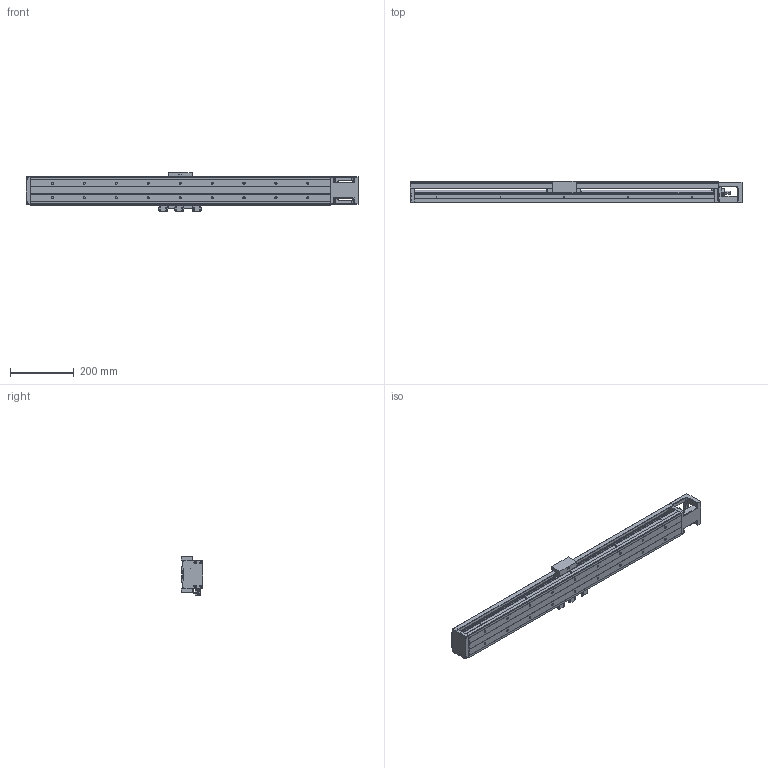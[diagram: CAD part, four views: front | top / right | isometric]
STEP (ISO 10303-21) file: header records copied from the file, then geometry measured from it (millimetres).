
FILE_DESCRIPTION (( 'STEP AP203' ), '1' );
FILE_NAME ('HKK86D20C-940A1-F0CS2.stp', '2021-11-30T03:27:44', ( '' ), ( '' ), 'SwSTEP 2.0', 'SolidWorks 2018', '' );
FILE_SCHEMA (( 'CONFIG_CONTROL_DESIGN' ));
Length unit declared in the file: millimetre
Products named in the file (1): HKK86D20C-940A1-F0CS2
Bounding box: 1040 x 68 x 121.5 mm (x, y, z)
Volume: 2394801.7 mm3; surface area: 683926.2 mm2
Topology: 6 solids, 15 shells, 1413 faces, 3599 edges, 2280 vertices
Faces by surface type: plane 767, cylinder 467, cone 130, torus 32, sphere 9, bspline 8
Entity records: 42899 total; most frequent: CARTESIAN_POINT 8781, ORIENTED_EDGE 7058, DIRECTION 7045, EDGE_CURVE 3529, AXIS2_PLACEMENT_3D 2359, LINE 2327, VECTOR 2327, VERTEX_POINT 2276
